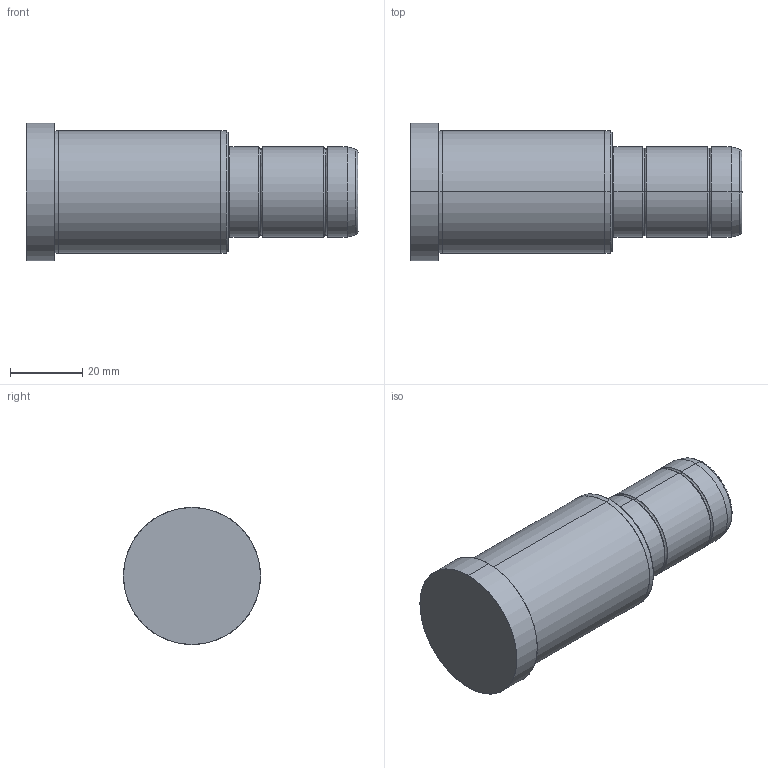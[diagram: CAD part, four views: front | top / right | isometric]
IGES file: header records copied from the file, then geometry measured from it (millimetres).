
Start section: SolidWorks IGES file using analytic representation for surfaces
Global section: file name: C:\Documents and Settings\kalite-mail\Desktop\IGS\D02\25\D02 - 25x56x36.IGS; native system: SolidWorks 2008; preprocessor: SolidWorks 2008; author: kalite-mail; date: 080616.173428; units: millimetre
Bounding box: 92 x 38 x 38 mm (x, y, z)
Surface area: 11140.3 mm2 (no closed solid volume)
Topology: 0 solids, 0 shells, 36 faces, 696 edges, 696 vertices
Faces by surface type: bspline 18, revolution 18
